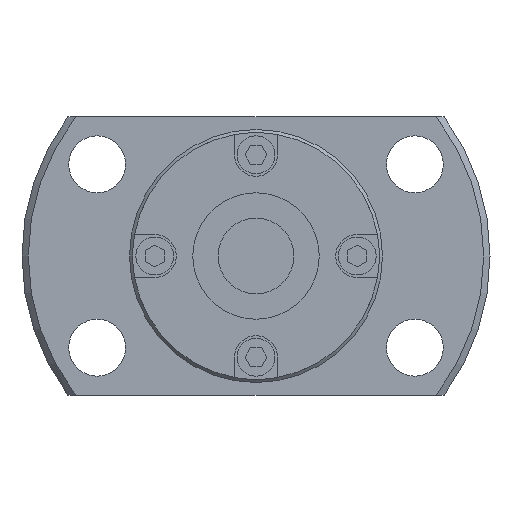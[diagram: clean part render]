
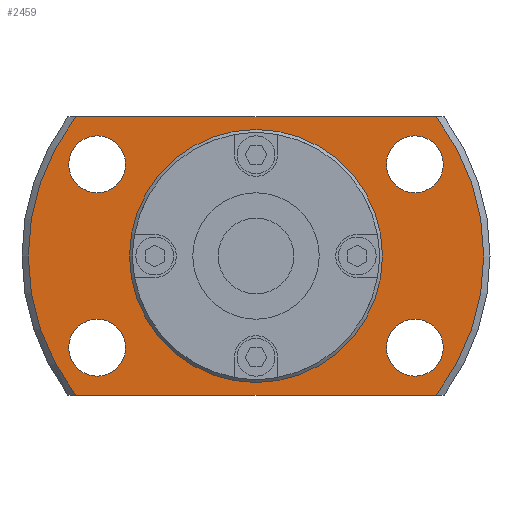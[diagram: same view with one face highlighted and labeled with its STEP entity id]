
A CAD part, left-side view. The second image highlights one B-rep face of the part: STEP entity #2459.
In plain terms, the highlighted planar face has unit normal (-1, 0, 0).
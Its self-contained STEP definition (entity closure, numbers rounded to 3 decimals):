
#136=LINE('',#3857,#362);
#137=LINE('',#3861,#363);
#362=VECTOR('',#3099,1000.);
#363=VECTOR('',#3102,1000.);
#684=ORIENTED_EDGE('',*,*,#1306,.F.);
#685=ORIENTED_EDGE('',*,*,#1307,.F.);
#686=ORIENTED_EDGE('',*,*,#1308,.F.);
#687=ORIENTED_EDGE('',*,*,#1309,.F.);
#688=ORIENTED_EDGE('',*,*,#1292,.F.);
#689=ORIENTED_EDGE('',*,*,#1310,.T.);
#690=ORIENTED_EDGE('',*,*,#1311,.F.);
#691=ORIENTED_EDGE('',*,*,#1312,.T.);
#692=ORIENTED_EDGE('',*,*,#1305,.T.);
#1292=EDGE_CURVE('',#1614,#1615,#1811,.T.);
#1305=EDGE_CURVE('',#1626,#1626,#1819,.T.);
#1306=EDGE_CURVE('',#1627,#1627,#1820,.F.);
#1307=EDGE_CURVE('',#1628,#1628,#1821,.F.);
#1308=EDGE_CURVE('',#1629,#1629,#1822,.F.);
#1309=EDGE_CURVE('',#1630,#1630,#1823,.F.);
#1310=EDGE_CURVE('',#1614,#1631,#136,.T.);
#1311=EDGE_CURVE('',#1632,#1631,#1824,.T.);
#1312=EDGE_CURVE('',#1632,#1615,#137,.T.);
#1614=VERTEX_POINT('',#3805);
#1615=VERTEX_POINT('',#3807);
#1626=VERTEX_POINT('',#3847);
#1627=VERTEX_POINT('',#3850);
#1628=VERTEX_POINT('',#3852);
#1629=VERTEX_POINT('',#3854);
#1630=VERTEX_POINT('',#3856);
#1631=VERTEX_POINT('',#3858);
#1632=VERTEX_POINT('',#3860);
#1811=CIRCLE('',#2675,18.);
#1819=CIRCLE('',#2690,9.75);
#1820=CIRCLE('',#2692,2.25);
#1821=CIRCLE('',#2693,2.25);
#1822=CIRCLE('',#2694,2.25);
#1823=CIRCLE('',#2695,2.25);
#1824=CIRCLE('',#2696,18.);
#1933=EDGE_LOOP('',(#684));
#1934=EDGE_LOOP('',(#685));
#1935=EDGE_LOOP('',(#686));
#1936=EDGE_LOOP('',(#687));
#1937=EDGE_LOOP('',(#688,#689,#690,#691));
#1938=EDGE_LOOP('',(#692));
#2155=FACE_BOUND('',#1933,.T.);
#2156=FACE_BOUND('',#1934,.T.);
#2157=FACE_BOUND('',#1935,.T.);
#2158=FACE_BOUND('',#1936,.T.);
#2159=FACE_BOUND('',#1937,.T.);
#2160=FACE_BOUND('',#1938,.T.);
#2331=PLANE('',#2691);
#2459=ADVANCED_FACE('',(#2155,#2156,#2157,#2158,#2159,#2160),#2331,.F.);
#2675=AXIS2_PLACEMENT_3D('',#3806,#3055,#3056);
#2690=AXIS2_PLACEMENT_3D('',#3846,#3087,#3088);
#2691=AXIS2_PLACEMENT_3D('',#3848,#3089,#3090);
#2692=AXIS2_PLACEMENT_3D('',#3849,#3091,#3092);
#2693=AXIS2_PLACEMENT_3D('',#3851,#3093,#3094);
#2694=AXIS2_PLACEMENT_3D('',#3853,#3095,#3096);
#2695=AXIS2_PLACEMENT_3D('',#3855,#3097,#3098);
#2696=AXIS2_PLACEMENT_3D('',#3859,#3100,#3101);
#3055=DIRECTION('',(1.,0.,0.));
#3056=DIRECTION('',(0.,0.,-1.));
#3087=DIRECTION('',(1.,0.,0.));
#3088=DIRECTION('',(0.,0.,-1.));
#3089=DIRECTION('',(1.,0.,0.));
#3090=DIRECTION('',(0.,0.,-1.));
#3091=DIRECTION('',(1.,0.,0.));
#3092=DIRECTION('',(0.,0.,-1.));
#3093=DIRECTION('',(1.,0.,0.));
#3094=DIRECTION('',(0.,0.,-1.));
#3095=DIRECTION('',(1.,0.,0.));
#3096=DIRECTION('',(0.,0.,-1.));
#3097=DIRECTION('',(1.,0.,0.));
#3098=DIRECTION('',(0.,0.,-1.));
#3099=DIRECTION('',(0.,-1.,0.));
#3100=DIRECTION('',(1.,0.,0.));
#3101=DIRECTION('',(0.,0.,-1.));
#3102=DIRECTION('',(0.,1.,0.));
#3805=CARTESIAN_POINT('',(13.,14.248,-11.));
#3806=CARTESIAN_POINT('',(13.,0.,0.));
#3807=CARTESIAN_POINT('',(13.,14.248,11.));
#3846=CARTESIAN_POINT('',(13.,0.,0.));
#3847=CARTESIAN_POINT('',(13.,0.,-9.75));
#3848=CARTESIAN_POINT('',(13.,9.75,0.));
#3849=CARTESIAN_POINT('',(13.,-12.557,-7.25));
#3850=CARTESIAN_POINT('',(13.,-12.557,-9.5));
#3851=CARTESIAN_POINT('',(13.,-12.557,7.25));
#3852=CARTESIAN_POINT('',(13.,-12.557,5.));
#3853=CARTESIAN_POINT('',(13.,12.557,-7.25));
#3854=CARTESIAN_POINT('',(13.,12.557,-9.5));
#3855=CARTESIAN_POINT('',(13.,12.557,7.25));
#3856=CARTESIAN_POINT('',(13.,12.557,5.));
#3857=CARTESIAN_POINT('',(13.,9.75,-11.));
#3858=CARTESIAN_POINT('',(13.,-14.248,-11.));
#3859=CARTESIAN_POINT('',(13.,0.,0.));
#3860=CARTESIAN_POINT('',(13.,-14.248,11.));
#3861=CARTESIAN_POINT('',(13.,9.75,11.));
